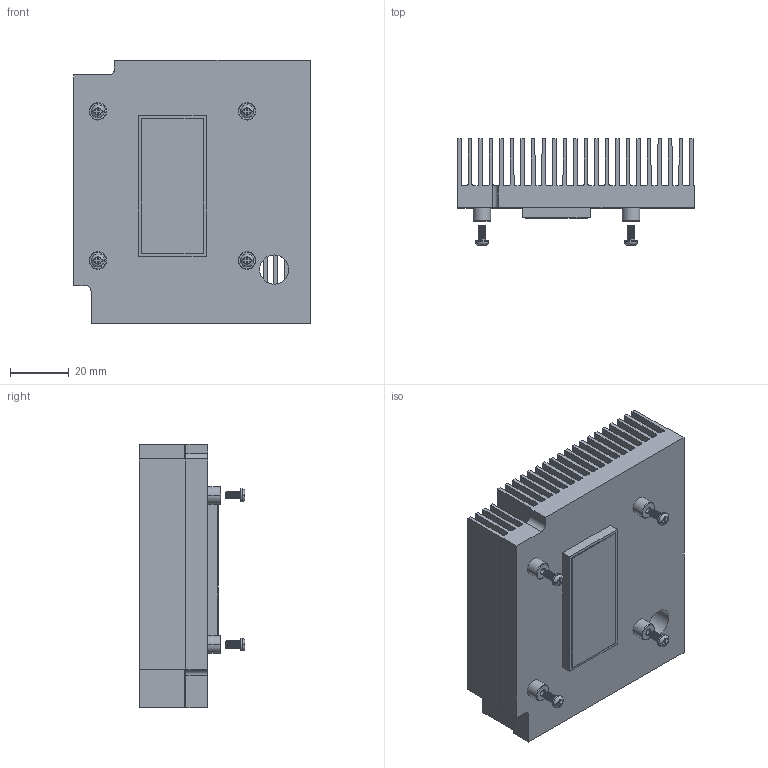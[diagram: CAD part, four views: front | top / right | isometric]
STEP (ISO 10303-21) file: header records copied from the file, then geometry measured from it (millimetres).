
FILE_DESCRIPTION((''),'2;1');
FILE_NAME('E1961211150029R_ASM','2023-07-05T16:08:20',('jamie_liao'),(''),'CREO PARAMETRIC BY PTC INC, 2022284','CREO PARAMETRIC BY PTC INC, 2022284','');
FILE_SCHEMA(('CONFIG_CONTROL_DESIGN','GEOMETRIC_VALIDATION_PROPERTIES_MIM'));
Length unit declared in the file: millimetre
Products named in the file (4): 95X36X90_12; E1933010501R; M7_GREASE; E1961211150029R_ASM
Assembly tree (6 placements, depth 2):
  E1961211150029R_ASM
    95X36X90_12
    E1933010501R  x4
    M7_GREASE
Bounding box: 81 x 36.2 x 90 mm (x, y, z)
Volume: 97658.4 mm3; surface area: 84834.6 mm2
Topology: 6 solids, 6 shells, 425 faces, 1182 edges, 776 vertices
Faces by surface type: plane 204, cylinder 165, bspline 32, cone 16, torus 8
Entity records: 11113 total; most frequent: CARTESIAN_POINT 4185, ORIENTED_EDGE 1458, DIRECTION 1317, EDGE_CURVE 729, VERTEX_POINT 479, VECTOR 473, LINE 473, AXIS2_PLACEMENT_3D 422
